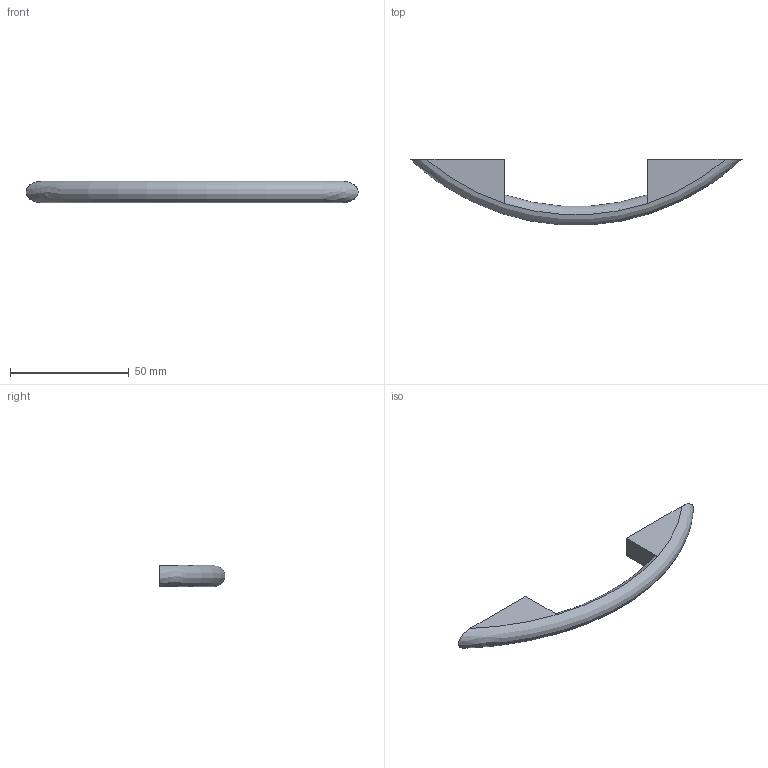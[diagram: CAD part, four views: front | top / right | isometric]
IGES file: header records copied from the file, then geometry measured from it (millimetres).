
Start section: Data from Parasolid IGES Translator 15.0.47, Copyright(c) 2006 Siemens P LM Software. All Rights Reserved.
Global section: file name: 9071096.igs; native system:  By UGS Corp.; preprocessor: XPlus GENERIC/IGES 3.0; author: Noname; organization: Noname; date: 20140122.145225; units: millimetre
Bounding box: 140 x 27.73 x 9 mm (x, y, z)
Surface area: 5556.7 mm2 (no closed solid volume)
Topology: 0 solids, 0 shells, 15 faces, 66 edges, 64 vertices
Faces by surface type: extrusion 10, revolution 5
